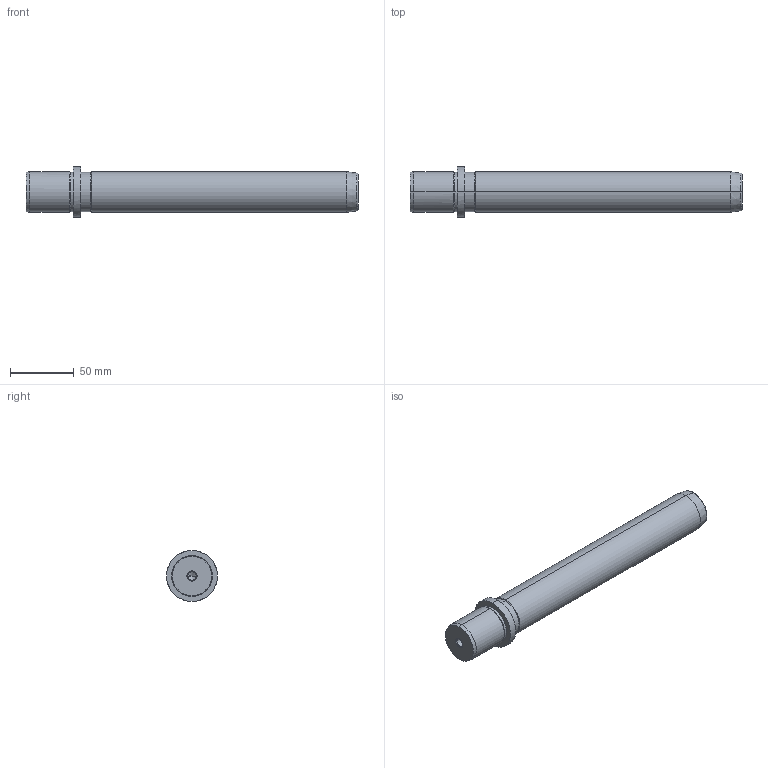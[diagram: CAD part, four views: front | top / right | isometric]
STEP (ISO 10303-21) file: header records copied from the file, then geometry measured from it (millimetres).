
FILE_DESCRIPTION(('CATIA V5 STEP Exchange'),'2;1');
FILE_NAME('C:\Users\Utente\Desktop\IO LAVORO\3D X SITO CF\X SITO\719\719-32x224.stp','2021-01-03T15:49:02+00:00',('none'),('none'),'CATIA Version 5 Release 20 GA (IN-10)','CATIA V5 STEP AP203','none');
FILE_SCHEMA(('CONFIG_CONTROL_DESIGN'));
Length unit declared in the file: millimetre
Products named in the file (1): 719-32x224
Bounding box: 261 x 40 x 40 mm (x, y, z)
Volume: 209739.8 mm3; surface area: 29778.5 mm2
Topology: 1 solids, 1 shells, 36 faces, 100 edges, 66 vertices
Faces by surface type: cone 16, cylinder 14, plane 4, torus 2
Entity records: 1270 total; most frequent: CARTESIAN_POINT 339, ORIENTED_EDGE 192, DIRECTION 158, EDGE_CURVE 96, AXIS2_PLACEMENT_3D 93, VERTEX_POINT 66, CIRCLE 56, EDGE_LOOP 40
